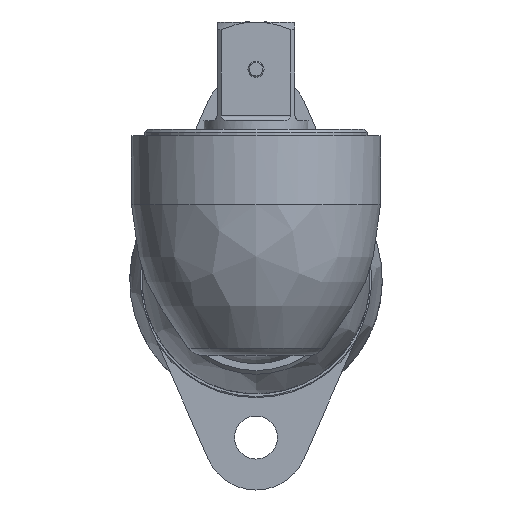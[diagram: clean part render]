
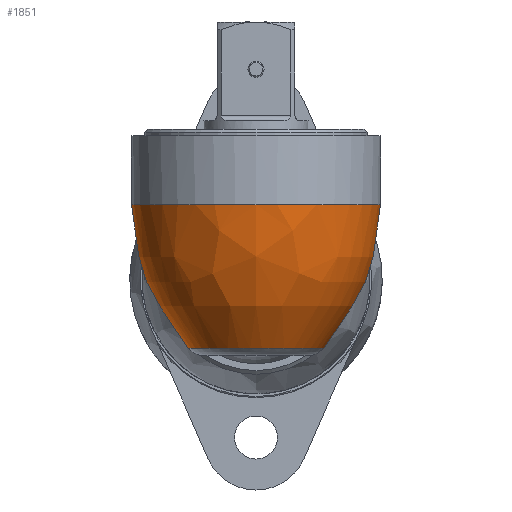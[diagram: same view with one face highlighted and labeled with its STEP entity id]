
A CAD part, left-side view. The second image highlights one B-rep face of the part: STEP entity #1851.
In plain terms, the highlighted free-form (B-spline) face has degree [3, 3] with [4, 7] control points.
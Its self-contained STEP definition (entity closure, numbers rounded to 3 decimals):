
#240=(
BOUNDED_SURFACE()
B_SPLINE_SURFACE(3,3,((#10499,#10500,#10501,#10502,#10503,#10504,#10505),
(#10506,#10507,#10508,#10509,#10510,#10511,#10512),(#10513,#10514,#10515,
#10516,#10517,#10518,#10519),(#10520,#10521,#10522,#10523,#10524,#10525,
#10526)),.UNSPECIFIED.,.F.,.F.,.F.)
B_SPLINE_SURFACE_WITH_KNOTS((4,4),(4,3,4),(0.,1.),(0.,0.5,1.),.UNSPECIFIED.)
GEOMETRIC_REPRESENTATION_ITEM()
RATIONAL_B_SPLINE_SURFACE(((1.,0.406,0.406,1.,0.406,
0.406,1.),(0.953,0.387,0.387,
0.953,0.387,0.387,0.953),(0.953,
0.387,0.387,0.953,0.387,0.387,
0.953),(1.,0.406,0.406,1.,0.406,
0.406,1.)))
REPRESENTATION_ITEM('')
SURFACE()
);
#697=B_SPLINE_CURVE_WITH_KNOTS('',3,(#10403,#10404,#10405,#10406,#10407,
#10408,#10409,#10410,#10411,#10412,#10413,#10414),.UNSPECIFIED.,.F.,.F.,
(4,2,2,2,2,4),(0.,0.25,0.5,0.75,0.875,1.),.UNSPECIFIED.);
#702=B_SPLINE_CURVE_WITH_KNOTS('',3,(#10461,#10462,#10463,#10464,#10465,
#10466,#10467,#10468,#10469,#10470,#10471,#10472),.UNSPECIFIED.,.F.,.F.,
(4,2,2,2,2,4),(0.,0.125,0.25,0.5,0.75,1.),.UNSPECIFIED.);
#705=B_SPLINE_CURVE_WITH_KNOTS('',3,(#10491,#10492,#10493,#10494),.UNSPECIFIED.,
.F.,.F.,(4,4),(0.,1.),.UNSPECIFIED.);
#706=B_SPLINE_CURVE_WITH_KNOTS('',3,(#10495,#10496,#10497,#10498),.UNSPECIFIED.,
.F.,.F.,(4,4),(0.,1.),.UNSPECIFIED.);
#1417=FACE_OUTER_BOUND('',#2677,.T.);
#1851=ADVANCED_FACE('',(#1417),#240,.T.);
#2677=EDGE_LOOP('',(#3310,#3311,#3312,#3313,#3314,#3315));
#3310=ORIENTED_EDGE('',*,*,#6266,.F.);
#3311=ORIENTED_EDGE('',*,*,#6267,.T.);
#3312=ORIENTED_EDGE('',*,*,#6253,.T.);
#3313=ORIENTED_EDGE('',*,*,#6265,.T.);
#3314=ORIENTED_EDGE('',*,*,#6261,.T.);
#3315=ORIENTED_EDGE('',*,*,#6268,.T.);
#5508=VERTEX_POINT('',#10415);
#5509=VERTEX_POINT('',#10416);
#5516=VERTEX_POINT('',#10460);
#5517=VERTEX_POINT('',#10473);
#5519=VERTEX_POINT('',#10489);
#5520=VERTEX_POINT('',#10490);
#6253=EDGE_CURVE('',#5508,#5509,#697,.T.);
#6261=EDGE_CURVE('',#5517,#5516,#702,.T.);
#6265=EDGE_CURVE('',#5509,#5517,#7363,.T.);
#6266=EDGE_CURVE('',#5519,#5520,#7364,.T.);
#6267=EDGE_CURVE('',#5519,#5508,#705,.T.);
#6268=EDGE_CURVE('',#5516,#5520,#706,.T.);
#7363=CIRCLE('',#7744,16.397);
#7364=CIRCLE('',#7746,30.163);
#7744=AXIS2_PLACEMENT_3D('',#10486,#8586,#8587);
#7746=AXIS2_PLACEMENT_3D('',#10488,#8590,#8591);
#8586=DIRECTION('',(0.,0.,1.));
#8587=DIRECTION('',(0.,1.,0.));
#8590=DIRECTION('',(0.,0.,1.));
#8591=DIRECTION('',(0.,1.,0.));
#10403=CARTESIAN_POINT('',(-191.168,7.54,16.633));
#10404=CARTESIAN_POINT('',(-192.073,10.849,15.134));
#10405=CARTESIAN_POINT('',(-193.515,13.507,12.738));
#10406=CARTESIAN_POINT('',(-196.821,17.143,7.128));
#10407=CARTESIAN_POINT('',(-198.687,18.133,3.918));
#10408=CARTESIAN_POINT('',(-202.169,18.368,-2.6));
#10409=CARTESIAN_POINT('',(-203.828,17.621,-6.003));
#10410=CARTESIAN_POINT('',(-205.355,14.916,-10.69));
#10411=CARTESIAN_POINT('',(-205.679,13.791,-12.117));
#10412=CARTESIAN_POINT('',(-205.999,11.052,-14.658));
#10413=CARTESIAN_POINT('',(-205.989,9.505,-15.707));
#10414=CARTESIAN_POINT('',(-205.927,7.808,-16.51));
#10415=CARTESIAN_POINT('',(-191.168,7.54,16.633));
#10416=CARTESIAN_POINT('',(-205.927,7.808,-16.51));
#10460=CARTESIAN_POINT('',(-191.168,-7.54,16.633));
#10461=CARTESIAN_POINT('',(-205.927,-7.808,-16.51));
#10462=CARTESIAN_POINT('',(-205.989,-9.504,-15.707));
#10463=CARTESIAN_POINT('',(-205.998,-11.06,-14.651));
#10464=CARTESIAN_POINT('',(-205.68,-13.786,-12.121));
#10465=CARTESIAN_POINT('',(-205.353,-14.922,-10.681));
#10466=CARTESIAN_POINT('',(-203.826,-17.621,-5.999));
#10467=CARTESIAN_POINT('',(-202.175,-18.374,-2.61));
#10468=CARTESIAN_POINT('',(-198.649,-18.125,3.987));
#10469=CARTESIAN_POINT('',(-196.796,-17.119,7.17));
#10470=CARTESIAN_POINT('',(-193.527,-13.516,12.719));
#10471=CARTESIAN_POINT('',(-192.068,-10.831,15.141));
#10472=CARTESIAN_POINT('',(-191.168,-7.54,16.633));
#10473=CARTESIAN_POINT('',(-205.927,-7.808,-16.51));
#10486=CARTESIAN_POINT('',(-220.346,0.,-16.51));
#10488=CARTESIAN_POINT('',(-220.346,0.,18.263));
#10489=CARTESIAN_POINT('',(-191.141,7.541,18.263));
#10490=CARTESIAN_POINT('',(-191.141,-7.541,18.263));
#10491=CARTESIAN_POINT('',(-191.141,7.541,18.263));
#10492=CARTESIAN_POINT('',(-191.141,7.541,17.719));
#10493=CARTESIAN_POINT('',(-191.15,7.541,17.176));
#10494=CARTESIAN_POINT('',(-191.168,7.54,16.633));
#10495=CARTESIAN_POINT('',(-191.168,-7.54,16.633));
#10496=CARTESIAN_POINT('',(-191.15,-7.541,17.176));
#10497=CARTESIAN_POINT('',(-191.141,-7.541,17.719));
#10498=CARTESIAN_POINT('',(-191.141,-7.541,18.263));
#10499=CARTESIAN_POINT('',(-190.897,6.524,18.263));
#10500=CARTESIAN_POINT('',(-201.55,54.609,18.263));
#10501=CARTESIAN_POINT('',(-250.508,49.251,18.263));
#10502=CARTESIAN_POINT('',(-250.508,0.,18.263));
#10503=CARTESIAN_POINT('',(-250.508,-49.251,18.263));
#10504=CARTESIAN_POINT('',(-201.55,-54.609,18.263));
#10505=CARTESIAN_POINT('',(-190.897,-6.524,18.263));
#10506=CARTESIAN_POINT('',(-190.897,6.524,5.185));
#10507=CARTESIAN_POINT('',(-201.55,54.609,5.185));
#10508=CARTESIAN_POINT('',(-250.508,49.251,5.185));
#10509=CARTESIAN_POINT('',(-250.508,0.,5.185));
#10510=CARTESIAN_POINT('',(-250.508,-49.251,5.185));
#10511=CARTESIAN_POINT('',(-201.55,-54.609,5.185));
#10512=CARTESIAN_POINT('',(-190.897,-6.524,5.185));
#10513=CARTESIAN_POINT('',(-195.597,5.483,-6.975));
#10514=CARTESIAN_POINT('',(-204.549,45.893,-6.975));
#10515=CARTESIAN_POINT('',(-245.694,41.39,-6.975));
#10516=CARTESIAN_POINT('',(-245.694,0.,-6.975));
#10517=CARTESIAN_POINT('',(-245.694,-41.39,-6.975));
#10518=CARTESIAN_POINT('',(-204.549,-45.893,-6.975));
#10519=CARTESIAN_POINT('',(-195.597,-5.483,-6.975));
#10520=CARTESIAN_POINT('',(-204.337,3.546,-16.51));
#10521=CARTESIAN_POINT('',(-210.128,29.686,-16.51));
#10522=CARTESIAN_POINT('',(-236.742,26.773,-16.51));
#10523=CARTESIAN_POINT('',(-236.742,0.,-16.51));
#10524=CARTESIAN_POINT('',(-236.742,-26.773,-16.51));
#10525=CARTESIAN_POINT('',(-210.128,-29.686,-16.51));
#10526=CARTESIAN_POINT('',(-204.337,-3.546,-16.51));
